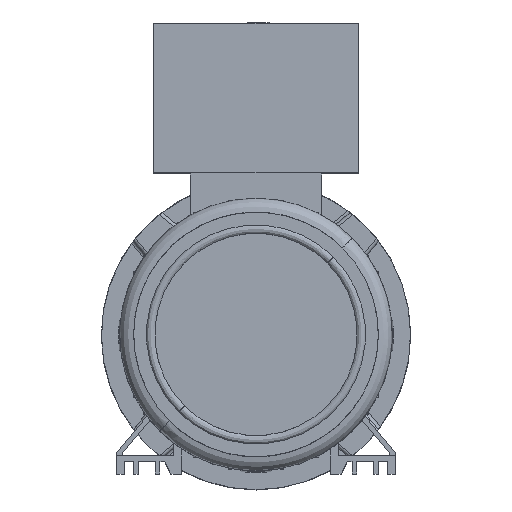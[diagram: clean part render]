
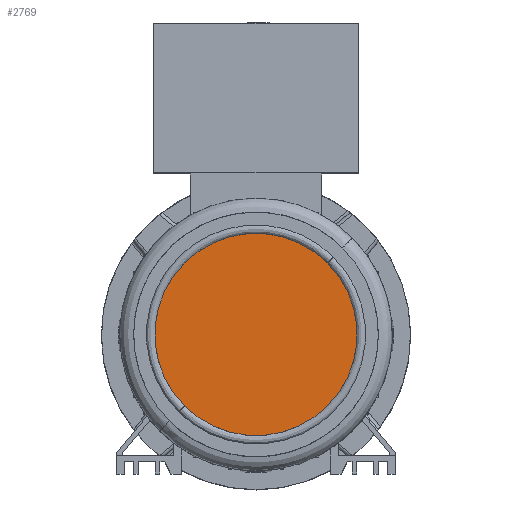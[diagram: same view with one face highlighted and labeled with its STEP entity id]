
A CAD part, top view. The second image highlights one B-rep face of the part: STEP entity #2769.
In plain terms, the highlighted planar face has unit normal (0, 0, 1).
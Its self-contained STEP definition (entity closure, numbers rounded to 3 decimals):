
#1121 = EDGE_CURVE ( 'NONE', #16089, #5860, #15752, .T. ) ;
#1198 = ORIENTED_EDGE ( 'NONE', *, *, #1121, .F. ) ;
#1335 = CARTESIAN_POINT ( 'NONE',  ( -46.166, -46.166, 158.5 ) ) ;
#1588 = CARTESIAN_POINT ( 'NONE',  ( -46.246, 46.246, 158.5 ) ) ;
#2206 = CARTESIAN_POINT ( 'NONE',  ( 46.166, 46.166, 158.5 ) ) ;
#2216 = EDGE_LOOP ( 'NONE', ( #1198, #17767 ) ) ;
#2769 = ADVANCED_FACE ( 'NONE', ( #31905 ), #18976, .F. ) ;
#5860 = VERTEX_POINT ( 'NONE', #2206 ) ;
#6061 = EDGE_CURVE ( 'NONE', #5860, #16089, #11194, .T. ) ;
#7183 = DIRECTION ( 'NONE',  ( 0., 1., 0. ) ) ;
#11003 = DIRECTION ( 'NONE',  ( 0., 1., 0. ) ) ;
#11194 = CIRCLE ( 'NONE', #15606, 65.289 ) ;
#12383 = AXIS2_PLACEMENT_3D ( 'NONE', #1588, #33535, #30565 ) ;
#12943 = DIRECTION ( 'NONE',  ( 0., 0., -1. ) ) ;
#15606 = AXIS2_PLACEMENT_3D ( 'NONE', #18528, #12943, #7183 ) ;
#15752 = CIRCLE ( 'NONE', #17809, 65.289 ) ;
#16089 = VERTEX_POINT ( 'NONE', #1335 ) ;
#16716 = CARTESIAN_POINT ( 'NONE',  ( 0., 0., 158.5 ) ) ;
#17767 = ORIENTED_EDGE ( 'NONE', *, *, #6061, .F. ) ;
#17809 = AXIS2_PLACEMENT_3D ( 'NONE', #16716, #19817, #11003 ) ;
#18528 = CARTESIAN_POINT ( 'NONE',  ( 0., 0., 158.5 ) ) ;
#18976 = PLANE ( 'NONE',  #12383 ) ;
#19817 = DIRECTION ( 'NONE',  ( 0., 0., -1. ) ) ;
#30565 = DIRECTION ( 'NONE',  ( 0., 1., 0. ) ) ;
#31905 = FACE_OUTER_BOUND ( 'NONE', #2216, .T. ) ;
#33535 = DIRECTION ( 'NONE',  ( 0., 0., -1. ) ) ;
